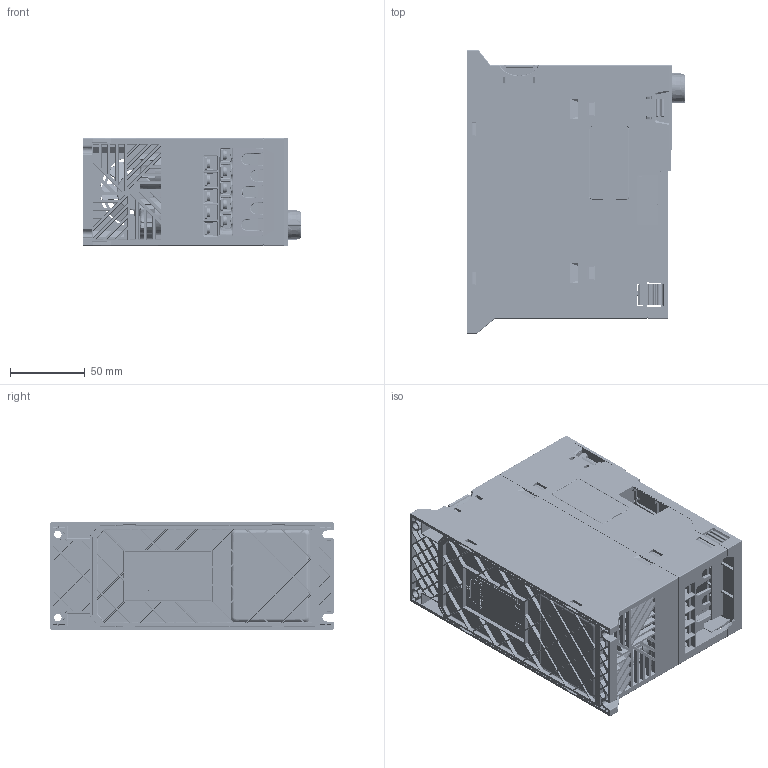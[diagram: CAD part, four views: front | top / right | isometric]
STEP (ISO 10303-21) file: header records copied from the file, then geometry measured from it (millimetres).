
FILE_DESCRIPTION((''),'2;1');
FILE_NAME('00-A001_ASM','2025-03-12T17:49:04',('A003968'),(''),'CREO PARAMETRIC BY PTC INC, 2020074','CREO PARAMETRIC BY PTC INC, 2020074','');
FILE_SCHEMA(('CONFIG_CONTROL_DESIGN','SHAPE_APPEARANCE_LAYERS_GROUPS'));
Products named in the file (21): A001-12-01; A001-12-02; A001-12-03; A001-12-04; A001-12-05; A002-12-06; A001-12-09; A001-10-02_ASM; BA5-05-11_0-18; MC20-PS01G4TDA_ASM; A001-PCB_ASM; FAN-5015; A001-QJ_ASM; A001-12-07; A001-12-08; A001-12-06; A001-18-01; A001-18-03; GBT845-2017_F_ST2_2X6_5; A001-JP_ASM; 00-A001_ASM
Assembly tree (22 placements, depth 4):
  00-A001_ASM
    A001-10-02_ASM
      A001-12-01
      A001-12-02
      A001-12-03
      A001-12-04
      A001-12-05
      A002-12-06  x2
      A001-12-09
    A001-PCB_ASM
      MC20-PS01G4TDA_ASM
        BA5-05-11_0-18
    A001-QJ_ASM
      FAN-5015
    A001-JP_ASM
      A001-12-07
      A001-12-08
      A001-12-06
      A001-18-01
      A001-18-03
      GBT845-2017_F_ST2_2X6_5  x2
Bounding box: 146.6 x 190 x 72 mm (x, y, z)
Volume: 314798.7 mm3; surface area: 345522.4 mm2
Topology: 17 solids, 27 shells, 11991 faces, 33992 edges, 22630 vertices
Faces by surface type: plane 8948, cylinder 1437, cone 651, extrusion 426, bspline 349, torus 131, sphere 49
Entity records: 487707 total; most frequent: CARTESIAN_POINT 97689, ORIENTED_EDGE 63558, DIRECTION 53502, EDGE_CURVE 31779, PRESENTATION_STYLE_ASSIGNMENT 31434, STYLED_ITEM 31157, CURVE_STYLE 30743, VECTOR 25722
